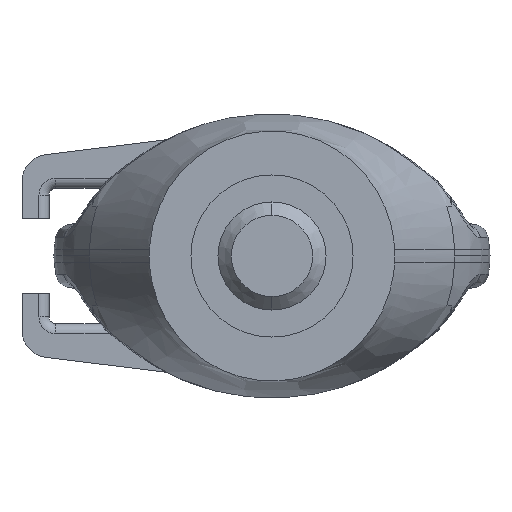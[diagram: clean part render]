
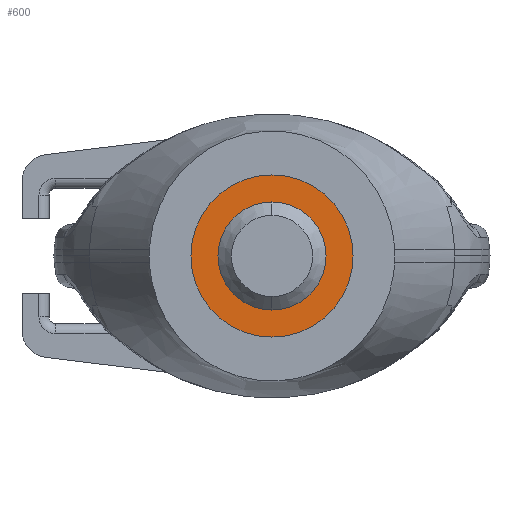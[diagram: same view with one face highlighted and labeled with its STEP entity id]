
A CAD part, front view. The second image highlights one B-rep face of the part: STEP entity #600.
In plain terms, the highlighted planar face has unit normal (0, -1, 0).
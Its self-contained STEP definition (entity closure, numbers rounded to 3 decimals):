
#600=ADVANCED_FACE('',(#1526,#1527),#1528,.F.);
#1526=FACE_OUTER_BOUND('',#2807,.T.);
#1527=FACE_BOUND('',#2808,.T.);
#1528=PLANE('',#2809);
#2807=EDGE_LOOP('',(#11929,#11930));
#2808=EDGE_LOOP('',(#11931,#11932));
#2809=AXIS2_PLACEMENT_3D('',#11933,#11934,#11935);
#11929=ORIENTED_EDGE('',*,*,#14826,.T.);
#11930=ORIENTED_EDGE('',*,*,#14867,.T.);
#11931=ORIENTED_EDGE('',*,*,#14869,.F.);
#11932=ORIENTED_EDGE('',*,*,#14815,.F.);
#11933=CARTESIAN_POINT('',(12.,-32.5,0.0));
#11934=DIRECTION('',(0.0,1.0,0.0));
#11935=DIRECTION('',(1.0,0.0,-0.0));
#14815=EDGE_CURVE('',#16392,#16395,#16396,.F.);
#14826=EDGE_CURVE('',#16408,#16412,#16414,.T.);
#14867=EDGE_CURVE('',#16412,#16408,#16471,.T.);
#14869=EDGE_CURVE('',#16395,#16392,#16473,.F.);
#16392=VERTEX_POINT('',#18623);
#16395=VERTEX_POINT('',#18627);
#16396=CIRCLE('',#18628,8.0);
#16408=VERTEX_POINT('',#18643);
#16412=VERTEX_POINT('',#18648);
#16414=CIRCLE('',#18651,12.);
#16471=CIRCLE('',#18730,12.);
#16473=CIRCLE('',#18732,8.0);
#18623=CARTESIAN_POINT('',(0.,-32.5,-8.0));
#18627=CARTESIAN_POINT('',(0.0,-32.5,8.0));
#18628=AXIS2_PLACEMENT_3D('',#27106,#27107,#27108);
#18643=CARTESIAN_POINT('',(0.0,-32.5,-12.));
#18648=CARTESIAN_POINT('',(0.,-32.5,12.));
#18651=AXIS2_PLACEMENT_3D('',#27123,#27124,#27125);
#18730=AXIS2_PLACEMENT_3D('',#27163,#27164,#27165);
#18732=AXIS2_PLACEMENT_3D('',#27166,#27167,#27168);
#27106=CARTESIAN_POINT('',(0.0,-32.5,0.0));
#27107=DIRECTION('',(0.0,1.0,0.0));
#27108=DIRECTION('',(0.0,0.0,1.0));
#27123=CARTESIAN_POINT('',(0.0,-32.5,0.0));
#27124=DIRECTION('',(0.0,-1.0,0.0));
#27125=DIRECTION('',(0.0,0.0,-1.0));
#27163=CARTESIAN_POINT('',(0.0,-32.5,0.0));
#27164=DIRECTION('',(0.0,-1.0,0.0));
#27165=DIRECTION('',(0.0,0.0,-1.0));
#27166=CARTESIAN_POINT('',(0.0,-32.5,0.0));
#27167=DIRECTION('',(0.0,1.0,0.0));
#27168=DIRECTION('',(0.0,0.0,1.0));
